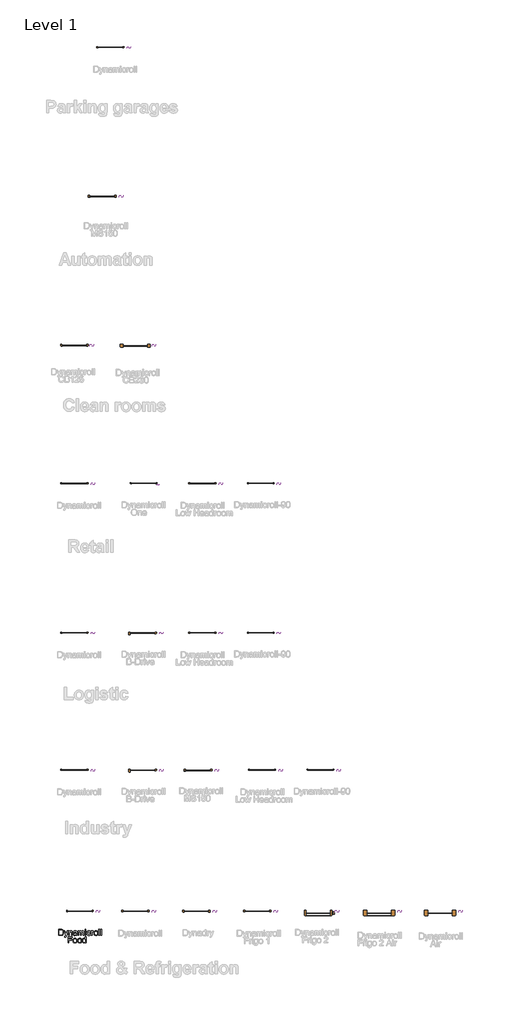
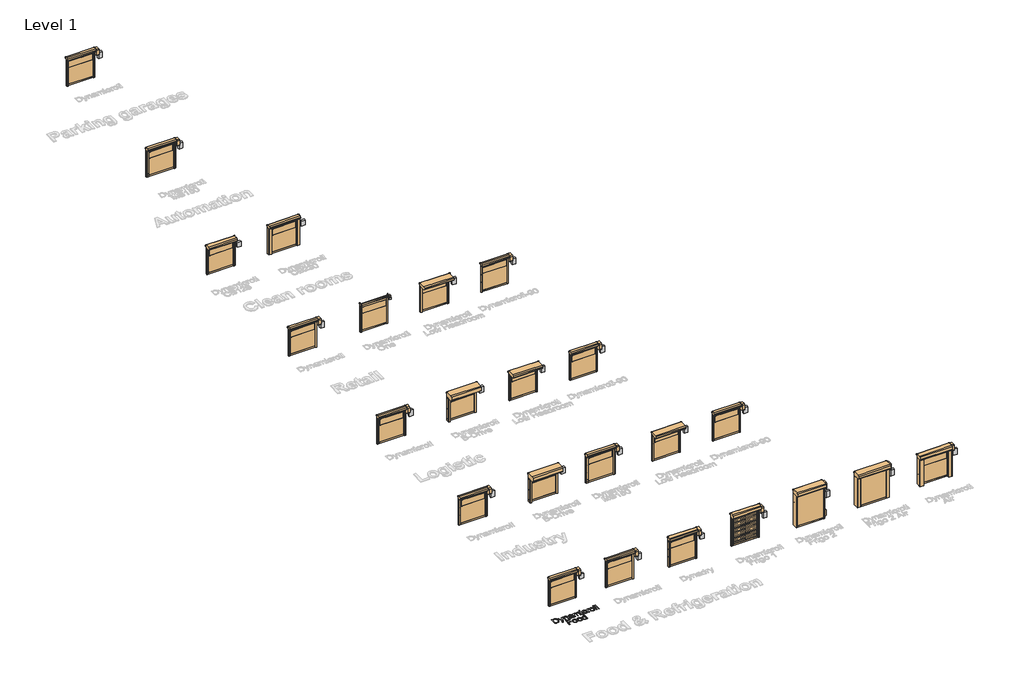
# One storey, part 1 of 17: 24 doors, 24 electric distribution boards, 1 proxy.
"""IFC4 building model written with IfcOpenShell, lengths in millimetres."""

from ifc_helpers import new_model, si_unit, origin, origin_with_axes, place, context, project, spatial, polyline, outline, extrude, transform, mapped, element, save
from components import door_73d46575, door_7dfef6e7, door_fc38a23d, door_0f29b29e, door_dcf74658, door_a66aba2e, door_ffd00a84, door_aceed0af, door_23fff084, door_8d8b76a4, door_111b3a7b, door_f3b390bc, cb125_eadb58d3, cb230_7affb9d1, ee_wpb_control_panel_bmp_sh_control_panel_one_fab0d9c8, ee_wpb_control_panel_bmp_sh_control_panel_pvc_26d0edfe, ee_wpb_control_panel_bmp_sh_control_panel_powder_coated_2337cf2d

model = new_model("IFC4")

# Units and contexts
model_context = context("Model", 3, world=origin())
ifc_project = project(units=[si_unit("LENGTHUNIT", "METRE", prefix="MILLI")], contexts=[model_context])

# Site, building, storey
site = spatial("IfcSite", under=ifc_project)
building = spatial("IfcBuilding", under=site)
storey = spatial("IfcBuildingStorey", under=building, Name="Level 1", Elevation=0.0)

# Proxy
placement = place(None, origin())
element("IfcBuildingElementProxy", 1, Name="500mm", ObjectType="500mm", at=placement, inside=storey, context=model_context, shape_type="SweptSolid", body=[
    extrude(outline(polyline([(202.3822984, 7606.4708973), (202.3822984, 8108.7524481), (375.6547181, 8108.7524481), (427.4341089, 8106.9436949), (465.2952976, 8101.5174355), (505.3331214, 8087.5685765), (539.1169513, 8065.5876273), (557.7333131, 8047.6227232), (573.851143, 8027.3278998), (587.470441, 8004.7031571), (598.5912072, 7979.7484951), (613.3984575, 7923.7691182), (618.3342076, 7860.309474), (614.9926128, 7806.3994333), (604.9678284, 7758.9579843), (589.7007256, 7718.567607), (570.6321755, 7685.810781), (548.6818831, 7659.9517424), (524.7695535, 7640.2547272), (497.3163596, 7625.6467463), (464.7434746, 7615.0548106), (426.9895848, 7608.6168756), (383.9933766, 7606.4708973), (202.3822984, 7606.4708973)]), holes=[polyline([(265.1674922, 7669.2560912), (376.2678547, 7669.2560912), (422.2224473, 7671.5246968), (457.0792663, 7678.3305137), (483.382829, 7689.2750031), (503.6776524, 7703.9596261), (525.489989, 7731.1369085), (541.8760662, 7766.3156242), (552.1307769, 7809.6490576), (555.5490137, 7861.2904927), (553.8743842, 7897.741467), (548.8504957, 7929.7165438), (540.4773482, 7957.2157229), (528.7549417, 7980.2390044), (514.6336381, 7999.3075545), (499.063799, 8014.9425393), (482.0454247, 8027.1439588), (463.5785149, 8035.911813), (427.4647657, 8043.4533939), (374.5510721, 8045.9672542), (265.1674922, 8045.9672542), (265.1674922, 7669.2560912)])]), origin_with_axes(), (0.0, 0.0, 1.0), 5.0),
    extrude(outline(polyline([(696.8156999, 7465.2042112), (688.9675506, 7525.6594857), (720.8506569, 7520.1412558), (737.6199445, 7521.8733669), (750.6490985, 7527.0697), (760.7965102, 7535.3623734), (768.9205709, 7546.3835048), (786.0883974, 7592.6140089), (790.9934906, 7607.819798), (657.5749537, 7975.3339112), (723.7937129, 7975.3339112), (794.5496833, 7770.5462672), (819.1977769, 7688.6312096), (843.8458706, 7760.9813353), (916.5638783, 7975.3339112), (982.2921281, 7975.3339112), (853.9013118, 7597.6417295), (820.5466776, 7515.7266719), (803.4708216, 7489.5763934), (784.1263601, 7471.4582051), (761.6549015, 7460.8815978), (735.1980547, 7457.356062), (717.0185528, 7459.3180993), (696.8156999, 7465.2042112)])), origin_with_axes(), (0.0, 0.0, 1.0), 5.0),
    extrude(outline(polyline([(1034.2861168, 7606.4708973), (1034.2861168, 7975.3339112), (1097.0713106, 7975.3339112), (1097.0713106, 7923.8304318), (1118.8836473, 7949.7967693), (1145.079911, 7968.3441533), (1175.6601018, 7979.4725836), (1210.6242198, 7983.1820604), (1241.5722926, 7980.1930192), (1269.9145347, 7971.2258956), (1293.5509529, 7957.3996639), (1310.3815542, 7939.8332986), (1321.8012244, 7918.572785), (1329.2048496, 7893.6641082), (1332.5157875, 7832.963579), (1332.5157875, 7606.4708973), (1269.7305937, 7606.4708973), (1269.7305937, 7824.5022932), (1267.9218406, 7856.9678792), (1262.4955811, 7880.0524744), (1252.4861252, 7896.5918358), (1236.9277825, 7909.4217204), (1216.9855126, 7917.65308), (1193.8242754, 7920.3968666), (1174.7595574, 7918.8563607), (1157.0514043, 7914.2348431), (1140.699816, 7906.5323139), (1125.7047926, 7895.7487729), (1113.1776442, 7880.6579469), (1104.2296811, 7860.0335625), (1098.8609032, 7833.8756198), (1097.0713106, 7802.1841188), (1097.0713106, 7606.4708973), (1034.2861168, 7606.4708973)])), origin_with_axes(), (0.0, 0.0, 1.0), 5.0),
    extrude(outline(polyline([(1654.289906, 7653.5597927), (1624.292195, 7627.8387099), (1593.4054358, 7611.0081086), (1560.9245213, 7601.7190882), (1526.1443443, 7598.6227481), (1498.1891448, 7600.4851507), (1473.6751748, 7606.0723585), (1452.6024342, 7615.3843715), (1434.9709232, 7628.4211897), (1421.0488889, 7644.3550786), (1411.1045788, 7662.3583038), (1405.1379926, 7682.4308651), (1403.1491306, 7704.5727627), (1406.1535002, 7730.6004139), (1415.1666091, 7754.2368321), (1429.0694829, 7774.4703418), (1446.743147, 7790.2892676), (1467.5131514, 7802.2454324), (1490.7050455, 7810.8906593), (1545.0289534, 7820.3329639), (1609.2243616, 7830.2657777), (1653.922024, 7841.9153743), (1654.289906, 7855.8948901), (1649.9672925, 7883.9152354), (1636.9994522, 7902.2480215), (1623.924313, 7910.1881412), (1607.9980883, 7915.8596553), (1567.5923825, 7920.3968666), (1530.1910463, 7917.3771685), (1504.0714246, 7908.3180744), (1486.2598047, 7891.5641152), (1473.7824737, 7865.4598219), (1410.9972798, 7873.3079712), (1421.8957839, 7907.6436241), (1438.1592338, 7934.621637), (1461.3051427, 7955.2536856), (1492.8510238, 7970.5514452), (1531.432648, 7980.0244066), (1575.6857863, 7983.1820604), (1618.1301715, 7980.3922886), (1651.7760457, 7972.0229732), (1677.1445749, 7959.4383433), (1694.7569255, 7944.0026279), (1706.4371788, 7924.9187494), (1714.0094165, 7901.3896301), (1717.0750998, 7846.4525855), (1717.0750998, 7768.3389752), (1720.2634105, 7659.2619636), (1724.9845627, 7632.2992791), (1732.7713983, 7606.4708973), (1669.9862044, 7606.4708973), (1659.9307632, 7628.2985624), (1654.289906, 7653.5597927)]), holes=[polyline([(1654.289906, 7779.1301804), (1612.1061039, 7768.6762004), (1552.99973, 7759.8776893), (1498.9823904, 7749.6996208), (1484.9262325, 7742.7405197), (1474.5182377, 7733.144931), (1468.0803028, 7721.6486187), (1465.9343245, 7708.9873467), (1470.6094915, 7690.3173354), (1484.6349925, 7675.0195758), (1507.7042593, 7664.8108504), (1539.5107235, 7661.407942), (1573.2332397, 7665.163404), (1603.0316813, 7676.4297901), (1627.1892657, 7693.0304651), (1643.9892101, 7712.7887939), (1651.4388205, 7733.144931), (1653.922024, 7761.3492173), (1654.289906, 7779.1301804)])]), origin_with_axes(), (0.0, 0.0, 1.0), 5.0),
    extrude(outline(polyline([(1803.4047414, 7606.4708973), (1803.4047414, 7975.3339112), (1866.1899352, 7975.3339112), (1866.1899352, 7914.633382), (1885.0745443, 7942.5157715), (1909.354756, 7964.358765), (1938.2028358, 7978.4762365), (1970.7910492, 7983.1820604), (2005.7091819, 7978.384266), (2033.6988703, 7963.990883), (2054.6068304, 7940.952273), (2068.2797779, 7910.218798), (2091.1651037, 7942.1402253), (2117.2693969, 7964.9412448), (2146.5926576, 7978.6218565), (2179.1348858, 7983.1820604), (2204.2696567, 7981.2851689), (2226.3310801, 7975.5944943), (2245.319156, 7966.1100366), (2261.2338844, 7952.8317958), (2273.8146822, 7935.6064878), (2282.8009663, 7914.2808284), (2288.1927368, 7888.8548176), (2289.9899937, 7859.3284554), (2289.9899937, 7606.4708973), (2227.2047998, 7606.4708973), (2227.2047998, 7832.3504424), (2225.7486002, 7863.6663972), (2221.3800016, 7884.7736267), (2213.1946272, 7899.2283234), (2200.2881005, 7910.58668), (2183.6874255, 7917.9443199), (2164.419606, 7920.3968666), (2146.6271466, 7918.8257039), (2130.4058498, 7914.1122158), (2115.7557158, 7906.2564024), (2102.6767444, 7895.2582636), (2091.9200282, 7880.7959026), (2084.2366594, 7862.5474228), (2079.6266382, 7840.5128241), (2078.0899644, 7814.6921066), (2078.0899644, 7606.4708973), (2015.3047706, 7606.4708973), (2015.3047706, 7839.3402003), (2011.6719359, 7874.8408128), (2000.7734318, 7900.1633568), (1992.3466348, 7909.0155173), (1981.5975828, 7915.3384891), (1953.1327134, 7920.3968666), (1928.9444722, 7917.0246149), (1906.6569547, 7906.9078601), (1888.2628549, 7890.2918566), (1875.7548671, 7867.4218593), (1868.5811682, 7835.6920372), (1866.1899352, 7792.4965596), (1866.1899352, 7606.4708973), (1803.4047414, 7606.4708973)])), origin_with_axes(), (0.0, 0.0, 1.0), 5.0),
    extrude(outline(polyline([(2384.1677844, 8045.9672542), (2384.1677844, 8108.7524481), (2446.9529783, 8108.7524481), (2446.9529783, 8045.9672542), (2384.1677844, 8045.9672542)])), origin_with_axes(), (0.0, 0.0, 1.0), 5.0),
    extrude(outline(polyline([(2384.1677844, 7606.4708973), (2384.1677844, 7975.3339112), (2446.9529783, 7975.3339112), (2446.9529783, 7606.4708973), (2384.1677844, 7606.4708973)])), origin_with_axes(), (0.0, 0.0, 1.0), 5.0),
    extrude(outline(polyline([(2776.5752459, 7739.8894343), (2839.3604398, 7732.041285), (2832.5316302, 7702.4152881), (2821.8553882, 7676.1998638), (2807.3317136, 7653.3950122), (2788.9606064, 7634.0007333), (2767.5161518, 7618.5228648), (2743.7724347, 7607.4672444), (2717.7294551, 7600.8338722), (2689.3872131, 7598.6227481), (2654.1740084, 7601.7075919), (2622.6013025, 7610.9621234), (2594.6690956, 7626.3863424), (2570.3773876, 7647.9802491), (2550.7148614, 7675.3376404), (2536.6701998, 7708.0523133), (2528.2434029, 7746.1242677), (2525.4344706, 7789.5535036), (2530.2322649, 7845.4255816), (2544.625648, 7893.8480492), (2555.4781668, 7914.7981624), (2568.844546, 7932.9508396), (2584.7247855, 7948.3060808), (2603.1188852, 7960.863886), (2644.1223993, 7977.6025168), (2688.5288218, 7983.1820604), (2716.3843866, 7981.2660083), (2741.5804711, 7975.5178522), (2764.1170755, 7965.9375919), (2783.9941995, 7952.5252275), (2800.8746181, 7935.5873273), (2814.4211062, 7915.4304596), (2824.6336637, 7892.0546245), (2831.5122906, 7865.4598219), (2768.7270967, 7857.6116727), (2757.3380833, 7885.0035529), (2739.6031054, 7904.6392544), (2716.5031818, 7916.4574635), (2689.0193311, 7920.3968666), (2667.6860075, 7918.4578219), (2648.4450127, 7912.6406878), (2631.2963468, 7902.9454644), (2616.2400097, 7889.3721516), (2603.9811086, 7871.6065169), (2595.2247507, 7849.3343278), (2589.970936, 7822.5555843), (2588.2196644, 7791.2702863), (2589.9326149, 7759.5136394), (2595.0714666, 7732.4244954), (2603.6362193, 7710.0028543), (2615.626873, 7692.2487159), (2630.384306, 7678.7558773), (2647.2493962, 7669.1181354), (2666.2221437, 7663.3354903), (2687.3025484, 7661.407942), (2719.8141198, 7666.2210647), (2746.470236, 7680.660433), (2757.2499449, 7691.5819298), (2765.8606828, 7705.0939289), (2776.5752459, 7739.8894343)])), origin_with_axes(), (0.0, 0.0, 1.0), 5.0),
    extrude(outline(polyline([(2894.2974844, 7606.4708973), (2894.2974844, 7975.3339112), (2949.234529, 7975.3339112), (2949.234529, 7920.7647486), (2969.5293524, 7952.4026001), (2988.2300205, 7971.0419546), (3006.9920023, 7980.1470339), (3027.4707666, 7983.1820604), (3058.7407362, 7978.3382808), (3090.5012152, 7963.806942), (3069.5319414, 7907.5209967), (3047.4590217, 7917.1778991), (3025.386102, 7920.3968666), (3006.6394487, 7917.3005264), (2989.8854895, 7908.0115061), (2976.3504977, 7893.2349126), (2967.2607468, 7873.6758532), (2959.6271954, 7838.6044363), (2957.0826782, 7800.3447088), (2957.0826782, 7606.4708973), (2894.2974844, 7606.4708973)])), origin_with_axes(), (0.0, 0.0, 1.0), 5.0),
    extrude(outline(polyline([(3114.0456628, 7790.9024043), (3117.4409071, 7838.6734142), (3127.6266398, 7879.8378766), (3144.6028611, 7914.3957915), (3168.3695708, 7942.3471589), (3192.2972289, 7960.2124283), (3218.7080905, 7972.973335), (3247.6021555, 7980.6298791), (3278.979424, 7983.1820604), (3313.6178131, 7980.074224), (3344.9376001, 7970.7507146), (3372.9387848, 7955.2115325), (3397.6213675, 7933.4566774), (3417.7667388, 7906.2219134), (3432.1562898, 7874.2430046), (3440.7900203, 7837.5199508), (3443.6679305, 7796.0527522), (3438.5788963, 7732.6237649), (3432.2176034, 7706.5884495), (3423.3117935, 7684.339253), (3411.9725974, 7665.1212508), (3398.3111462, 7648.1795185), (3382.3274399, 7633.5140561), (3364.0214786, 7621.1248635), (3323.293876, 7604.248277), (3278.979424, 7598.6227481), (3243.8351972, 7601.7190882), (3212.2241703, 7611.0081086), (3184.1463434, 7626.4898092), (3159.6017166, 7648.1641901), (3139.6709431, 7675.6633693), (3125.4346763, 7708.6194647), (3116.8929162, 7747.0324763), (3114.0456628, 7790.9024043)]), holes=[polyline([(3176.8308567, 7791.0250316), (3178.647274, 7760.5713002), (3184.0965261, 7734.2025918), (3193.1786129, 7711.9189063), (3205.8935343, 7693.7202439), (3221.3599065, 7679.5836118), (3238.6963455, 7669.4860174), (3257.9028514, 7663.4274608), (3278.979424, 7661.407942), (3299.9486977, 7663.4389571), (3319.0785615, 7669.5320027), (3336.3690153, 7679.6870786), (3351.8200591, 7693.9041849), (3364.5349805, 7712.2829562), (3373.6170673, 7734.9230273), (3379.0663193, 7761.8243982), (3380.8827367, 7792.9870689), (3379.054823, 7822.4751101), (3373.571082, 7848.1540398), (3364.4315137, 7870.0238579), (3351.6361181, 7888.0845646), (3336.1275927, 7902.2211967), (3318.8486352, 7912.3187911), (3299.7992457, 7918.3773477), (3278.979424, 7920.3968666), (3257.9028514, 7918.3850119), (3238.6963455, 7912.3494479), (3221.3599065, 7902.2901746), (3205.8935343, 7888.207192), (3193.1786129, 7870.062179), (3184.0965261, 7847.8168146), (3178.647274, 7821.4710988), (3176.8308567, 7791.0250316)])]), origin_with_axes(), (0.0, 0.0, 1.0), 5.0),
    extrude(outline(polyline([(3514.3012736, 7606.4708973), (3514.3012736, 8108.7524481), (3577.0864674, 8108.7524481), (3577.0864674, 7606.4708973), (3514.3012736, 7606.4708973)])), origin_with_axes(), (0.0, 0.0, 1.0), 5.0),
    extrude(outline(polyline([(3671.2642582, 7606.4708973), (3671.2642582, 8108.7524481), (3734.0494521, 8108.7524481), (3734.0494521, 7606.4708973), (3671.2642582, 7606.4708973)])), origin_with_axes(), (0.0, 0.0, 1.0), 5.0),
    extrude(outline(polyline([(987.1972214, 6996.5968081), (987.1972214, 7498.8783589), (1324.6676383, 7498.8783589), (1324.6676383, 7436.093165), (1049.9824152, 7436.093165), (1049.9824152, 7286.9783296), (1285.4268922, 7286.9783296), (1285.4268922, 7224.1931358), (1049.9824152, 7224.1931358), (1049.9824152, 6996.5968081), (987.1972214, 6996.5968081)])), origin_with_axes(), (0.0, 0.0, 1.0), 5.0),
    extrude(outline(polyline([(1387.4528322, 7181.028315), (1390.8480764, 7228.7993249), (1401.0338091, 7269.9637874), (1418.0100304, 7304.5217023), (1441.7767401, 7332.4730697), (1465.7043982, 7350.3383391), (1492.1152598, 7363.0992458), (1521.0093248, 7370.7557898), (1552.3865933, 7373.3079712), (1587.0249824, 7370.2001347), (1618.3447694, 7360.8766254), (1646.3459542, 7345.3374432), (1671.0285368, 7323.5825882), (1691.1739081, 7296.3478242), (1705.5634591, 7264.3689154), (1714.1971896, 7227.6458616), (1717.0750998, 7186.178663), (1711.9860656, 7122.7496756), (1705.6247727, 7096.7143603), (1696.7189628, 7074.4651638), (1685.3797667, 7055.2471616), (1671.7183155, 7038.3054293), (1655.7346092, 7023.6399669), (1637.4286479, 7011.2507743), (1596.7010453, 6994.3741877), (1552.3865933, 6988.7486589), (1517.2423665, 6991.844999), (1485.6313396, 7001.1340194), (1457.5535128, 7016.61572), (1433.0088859, 7038.2901009), (1413.0781124, 7065.78928), (1398.8418456, 7098.7453754), (1390.3000855, 7137.1583871), (1387.4528322, 7181.028315)]), holes=[polyline([(1450.238026, 7181.1509424), (1452.0544433, 7150.6972109), (1457.5036954, 7124.3285025), (1466.5857822, 7102.0448171), (1479.3007036, 7083.8461546), (1494.7670758, 7069.7095226), (1512.1035148, 7059.6119282), (1531.3100207, 7053.5533716), (1552.3865933, 7051.5338527), (1573.355867, 7053.5648679), (1592.4857308, 7059.6579135), (1609.7761846, 7069.8129894), (1625.2272284, 7084.0300956), (1637.9421498, 7102.408867), (1647.0242366, 7125.0489381), (1652.4734886, 7151.950309), (1654.289906, 7183.1129797), (1652.4619923, 7212.6010208), (1646.9782513, 7238.2799505), (1637.838683, 7260.1497687), (1625.0432874, 7278.2104754), (1609.534762, 7292.3471075), (1592.2558045, 7302.4447019), (1573.206415, 7308.5032585), (1552.3865933, 7310.5227773), (1531.3100207, 7308.5109227), (1512.1035148, 7302.4753587), (1494.7670758, 7292.4160854), (1479.3007036, 7278.3331028), (1466.5857822, 7260.1880898), (1457.5036954, 7237.9427254), (1452.0544433, 7211.5970096), (1450.238026, 7181.1509424)])]), origin_with_axes(), (0.0, 0.0, 1.0), 5.0),
    extrude(outline(polyline([(1772.0121444, 7181.028315), (1775.4073887, 7228.7993249), (1785.5931214, 7269.9637874), (1802.5693427, 7304.5217023), (1826.3360524, 7332.4730697), (1850.2637105, 7350.3383391), (1876.6745721, 7363.0992458), (1905.5686371, 7370.7557898), (1936.9459056, 7373.3079712), (1971.5842947, 7370.2001347), (2002.9040817, 7360.8766254), (2030.9052664, 7345.3374432), (2055.5878491, 7323.5825882), (2075.7332204, 7296.3478242), (2090.1227714, 7264.3689154), (2098.7565019, 7227.6458616), (2101.6344121, 7186.178663), (2096.5453779, 7122.7496756), (2090.184085, 7096.7143603), (2081.2782751, 7074.4651638), (2069.939079, 7055.2471616), (2056.2776278, 7038.3054293), (2040.2939215, 7023.6399669), (2021.9879602, 7011.2507743), (1981.2603576, 6994.3741877), (1936.9459056, 6988.7486589), (1901.8016788, 6991.844999), (1870.1906519, 7001.1340194), (1842.112825, 7016.61572), (1817.5681982, 7038.2901009), (1797.6374247, 7065.78928), (1783.4011579, 7098.7453754), (1774.8593978, 7137.1583871), (1772.0121444, 7181.028315)]), holes=[polyline([(1834.7973383, 7181.1509424), (1836.6137556, 7150.6972109), (1842.0630077, 7124.3285025), (1851.1450944, 7102.0448171), (1863.8600159, 7083.8461546), (1879.3263881, 7069.7095226), (1896.6628271, 7059.6119282), (1915.869333, 7053.5533716), (1936.9459056, 7051.5338527), (1957.9151793, 7053.5648679), (1977.0450431, 7059.6579135), (1994.3354969, 7069.8129894), (2009.7865407, 7084.0300956), (2022.5014621, 7102.408867), (2031.5835489, 7125.0489381), (2037.0328009, 7151.950309), (2038.8492183, 7183.1129797), (2037.0213046, 7212.6010208), (2031.5375636, 7238.2799505), (2022.3979953, 7260.1497687), (2009.6025997, 7278.2104754), (1994.0940743, 7292.3471075), (1976.8151168, 7302.4447019), (1957.7657273, 7308.5032585), (1936.9459056, 7310.5227773), (1915.869333, 7308.5109227), (1896.6628271, 7302.4753587), (1879.3263881, 7292.4160854), (1863.8600159, 7278.3331028), (1851.1450944, 7260.1880898), (1842.0630077, 7237.9427254), (1836.6137556, 7211.5970096), (1834.7973383, 7181.1509424)])]), origin_with_axes(), (0.0, 0.0, 1.0), 5.0),
    extrude(outline(polyline([(2399.8640829, 6996.5968081), (2399.8640829, 7055.8258093), (2381.0791085, 7026.479556), (2358.3240743, 7005.5179465), (2331.5989801, 6992.9409808), (2300.9038262, 6988.7486589), (2260.3141794, 6994.8187118), (2223.1580979, 7013.0288706), (2191.7041873, 7042.1068766), (2168.2210532, 7080.7804713), (2153.5977439, 7127.4861563), (2148.7233075, 7180.660433), (2153.2145335, 7233.1755878), (2166.6882116, 7280.6017084), (2176.7896381, 7301.7319305), (2189.1290133, 7320.2409934), (2203.7063374, 7336.128897), (2220.5216102, 7349.3956415), (2258.4900978, 7367.3298888), (2300.6585715, 7373.3079712), (2331.3767181, 7369.031343), (2358.5386721, 7356.2014584), (2381.5619536, 7336.5351001), (2399.8640829, 7311.7490507), (2399.8640829, 7498.8783589), (2462.6492767, 7498.8783589), (2462.6492767, 6996.5968081), (2399.8640829, 6996.5968081)]), holes=[polyline([(2211.5085013, 7180.9056877), (2213.2789334, 7150.4596205), (2218.5902298, 7124.1139047), (2227.4423903, 7101.8685403), (2239.835415, 7083.7235273), (2254.6350011, 7069.6405447), (2270.7068457, 7059.5812714), (2288.050949, 7053.5457074), (2306.6673108, 7051.5338527), (2325.371811, 7053.4537369), (2342.6124474, 7059.2133894), (2358.38922, 7068.8128102), (2372.7021289, 7082.2519993), (2384.5854838, 7099.6382557), (2393.0735944, 7121.0788782), (2398.1664608, 7146.5738669), (2399.8640829, 7176.1232218), (2398.1358039, 7208.51983), (2392.9509671, 7236.3025848), (2384.3095723, 7259.4714863), (2372.2116196, 7278.0265344), (2357.5844782, 7292.2436407), (2341.3555172, 7302.3987166), (2323.5247368, 7308.4917622), (2304.0921368, 7310.5227773), (2285.107893, 7308.5722363), (2267.7637898, 7302.7206134), (2252.0598271, 7292.9679084), (2237.996005, 7279.3141214), (2226.4077222, 7261.4603483), (2218.1303773, 7239.107685), (2213.1639703, 7212.2561315), (2211.5085013, 7180.9056877)])]), origin_with_axes(), (0.0, 0.0, 1.0), 5.0),
])

# Doors
door_shape = door_73d46575(model_context)
element("IfcDoor", 2, ObjectType="DO_WPB_Dynamicroll_BMP : Dynamicroll", at=placement, inside=storey, context=model_context, shape_type="MappedRepresentation", body=[
    mapped(door_shape, transform((6497.2684086, 9654.9840976, 0.0), x_axis=(1.0, 0.0, 0.0), y_axis=(0.0, 1.0, 0.0), z_axis=(0.0, 0.0, 1.0))),
])
element("IfcDoor", 3, ObjectType="DO_WPB_Dynamicroll_BMP : Dynamicroll", at=placement, inside=storey, context=model_context, shape_type="MappedRepresentation", body=[
    mapped(door_shape, transform((1488.8652486, 32462.1380074, 0.0), x_axis=(1.0, 0.0, 0.0), y_axis=(0.0, 1.0, 0.0), z_axis=(0.0, 0.0, 1.0))),
])
element("IfcDoor", 4, ObjectType="DO_WPB_Dynamicroll_BMP : Dynamicroll", at=placement, inside=storey, context=model_context, shape_type="MappedRepresentation", body=[
    mapped(door_shape, transform((1488.8652486, 21224.4832479, 0.0), x_axis=(1.0, 0.0, 0.0), y_axis=(0.0, 1.0, 0.0), z_axis=(0.0, 0.0, 1.0))),
])
element("IfcDoor", 5, ObjectType="DO_WPB_Dynamicroll_BMP : Dynamicroll", at=placement, inside=storey, context=model_context, shape_type="MappedRepresentation", body=[
    mapped(door_shape, transform((1488.8652486, 44698.8509751, 0.0), x_axis=(1.0, 0.0, 0.0), y_axis=(0.0, 1.0, 0.0), z_axis=(0.0, 0.0, 1.0))),
])
element("IfcDoor", 6, ObjectType="DO_WPB_Dynamicroll_BMP : Dynamicroll", at=placement, inside=storey, context=model_context, shape_type="MappedRepresentation", body=[
    mapped(door_shape, transform((4445.6536388, 80429.8524972, 0.0), x_axis=(1.0, 0.0, 0.0), y_axis=(0.0, 1.0, 0.0), z_axis=(0.0, 0.0, 1.0))),
])
door_2_shape = door_7dfef6e7(model_context)
element("IfcDoor", 7, ObjectType="DO_WPB_Dynamicroll_BMP : Dynamicroll-90", at=placement, inside=storey, context=model_context, shape_type="MappedRepresentation", body=[
    mapped(door_2_shape, transform((16781.7584674, 32462.1380074, 0.0), x_axis=(1.0, 0.0, 0.0), y_axis=(0.0, 1.0, 0.0), z_axis=(0.0, 0.0, 1.0))),
])
element("IfcDoor", 8, ObjectType="DO_WPB_Dynamicroll_BMP : Dynamicroll-90", at=placement, inside=storey, context=model_context, shape_type="MappedRepresentation", body=[
    mapped(door_2_shape, transform((21681.7584674, 21224.4832479, 0.0), x_axis=(1.0, 0.0, 0.0), y_axis=(0.0, 1.0, 0.0), z_axis=(0.0, 0.0, 1.0))),
])
element("IfcDoor", 9, ObjectType="DO_WPB_Dynamicroll_BMP : Dynamicroll-90", at=placement, inside=storey, context=model_context, shape_type="MappedRepresentation", body=[
    mapped(door_2_shape, transform((16781.7584674, 44698.8509751, 0.0), x_axis=(1.0, 0.0, 0.0), y_axis=(0.0, 1.0, 0.0), z_axis=(0.0, 0.0, 1.0))),
])
door_3_shape = door_fc38a23d(model_context)
element("IfcDoor", 10, ObjectType="DO_WPB_Dynamicroll_BMP : Dynamicroll MS150", at=placement, inside=storey, context=model_context, shape_type="MappedRepresentation", body=[
    mapped(door_3_shape, transform((11635.9345844, 21224.4832479, 0.0), x_axis=(1.0, 0.0, 0.0), y_axis=(0.0, 1.0, 0.0), z_axis=(0.0, 0.0, 1.0))),
])
element("IfcDoor", 11, ObjectType="DO_WPB_Dynamicroll_BMP : Dynamicroll MS150", at=placement, inside=storey, context=model_context, shape_type="MappedRepresentation", body=[
    mapped(door_3_shape, transform((3788.8652486, 68233.2125546, 0.0), x_axis=(1.0, 0.0, 0.0), y_axis=(0.0, 1.0, 0.0), z_axis=(0.0, 0.0, 1.0))),
])
door_4_shape = door_0f29b29e(model_context)
element("IfcDoor", 12, ObjectType="DO_WPB_Dynamicroll_BMP : Dynamicroll Food Inox", at=placement, inside=storey, context=model_context, shape_type="MappedRepresentation", body=[
    mapped(door_4_shape, transform((1948.7786866, 9654.9840976, 0.0), x_axis=(1.0, 0.0, 0.0), y_axis=(0.0, 1.0, 0.0), z_axis=(0.0, 0.0, 1.0))),
])
door_5_shape = door_dcf74658(model_context)
element("IfcDoor", 13, ObjectType="DO_WPB_Dynadry_BMP : Dynadry", at=placement, inside=storey, context=model_context, shape_type="MappedRepresentation", body=[
    mapped(door_5_shape, transform((11497.2684086, 9654.9840976, 0.0), x_axis=(1.0, 0.0, 0.0), y_axis=(0.0, 1.0, 0.0), z_axis=(0.0, 0.0, 1.0))),
])
door_6_shape = door_a66aba2e(model_context)
element("IfcDoor", 14, ObjectType="DO_WPB_Dynamicroll Frigo_Air_BMP : Dynamicroll Frigo1", at=placement, inside=storey, context=model_context, shape_type="MappedRepresentation", body=[
    mapped(door_6_shape, transform((16497.2684086, 9654.9840976, 0.0), x_axis=(1.0, 0.0, 0.0), y_axis=(0.0, 1.0, 0.0), z_axis=(0.0, 0.0, 1.0))),
])
door_7_shape = door_ffd00a84(model_context)
element("IfcDoor", 15, ObjectType="DO_WPB_Dynamicroll Frigo_Air_BMP : Dynamicroll Frigo2", at=placement, inside=storey, context=model_context, shape_type="MappedRepresentation", body=[
    mapped(door_7_shape, transform((21497.2684086, 9654.9840976, 0.0), x_axis=(1.0, 0.0, 0.0), y_axis=(0.0, 1.0, 0.0), z_axis=(0.0, 0.0, 1.0))),
])
door_8_shape = door_aceed0af(model_context)
element("IfcDoor", 16, ObjectType="DO_WPB_Dynamicroll Frigo_Air_BMP : Dynamicroll Frigo2 Air", at=placement, inside=storey, context=model_context, shape_type="MappedRepresentation", body=[
    mapped(door_8_shape, transform((26497.2684086, 9654.9840976, 0.0), x_axis=(1.0, 0.0, 0.0), y_axis=(0.0, 1.0, 0.0), z_axis=(0.0, 0.0, 1.0))),
])
door_9_shape = door_23fff084(model_context)
element("IfcDoor", 17, ObjectType="DO_WPB_Dynamicroll Frigo_Air_BMP : Dynamicroll Air", at=placement, inside=storey, context=model_context, shape_type="MappedRepresentation", body=[
    mapped(door_9_shape, transform((31497.2684086, 9654.9840976, 0.0), x_axis=(1.0, 0.0, 0.0), y_axis=(0.0, 1.0, 0.0), z_axis=(0.0, 0.0, 1.0))),
])
door_10_shape = door_8d8b76a4(model_context)
element("IfcDoor", 18, ObjectType="DO_WPB_Dynamicroll_BMP : Dynamicroll B-Drive", at=placement, inside=storey, context=model_context, shape_type="MappedRepresentation", body=[
    mapped(door_10_shape, transform((7088.8652486, 32462.1380074, 0.0), x_axis=(1.0, 0.0, 0.0), y_axis=(0.0, 1.0, 0.0), z_axis=(0.0, 0.0, 1.0))),
])
element("IfcDoor", 19, ObjectType="DO_WPB_Dynamicroll_BMP : Dynamicroll B-Drive", at=placement, inside=storey, context=model_context, shape_type="MappedRepresentation", body=[
    mapped(door_10_shape, transform((7088.8652486, 21224.4832479, 0.0), x_axis=(1.0, 0.0, 0.0), y_axis=(0.0, 1.0, 0.0), z_axis=(0.0, 0.0, 1.0))),
])
door_11_shape = door_111b3a7b(model_context)
element("IfcDoor", 20, ObjectType="DO_WPB_Dynamicroll_BMP : Dynamicroll Low Headroom", at=placement, inside=storey, context=model_context, shape_type="MappedRepresentation", body=[
    mapped(door_11_shape, transform((11988.8652486, 32462.1380074, 0.0), x_axis=(1.0, 0.0, 0.0), y_axis=(0.0, 1.0, 0.0), z_axis=(0.0, 0.0, 1.0))),
])
element("IfcDoor", 21, ObjectType="DO_WPB_Dynamicroll_BMP : Dynamicroll Low Headroom", at=placement, inside=storey, context=model_context, shape_type="MappedRepresentation", body=[
    mapped(door_11_shape, transform((16888.8652486, 21224.4832479, 0.0), x_axis=(1.0, 0.0, 0.0), y_axis=(0.0, 1.0, 0.0), z_axis=(0.0, 0.0, 1.0))),
])
element("IfcDoor", 22, ObjectType="DO_WPB_Dynamicroll_BMP : Dynamicroll Low Headroom", at=placement, inside=storey, context=model_context, shape_type="MappedRepresentation", body=[
    mapped(door_11_shape, transform((11988.8652486, 44698.8509751, 0.0), x_axis=(1.0, 0.0, 0.0), y_axis=(0.0, 1.0, 0.0), z_axis=(0.0, 0.0, 1.0))),
])
door_12_shape = door_f3b390bc(model_context)
element("IfcDoor", 23, ObjectType="DO_WPB_Dynamicroll_BMP : Dynamicroll One", at=placement, inside=storey, context=model_context, shape_type="MappedRepresentation", body=[
    mapped(door_12_shape, transform((7181.7584674, 44698.8509751, 0.0), x_axis=(1.0, 0.0, 0.0), y_axis=(0.0, 1.0, 0.0), z_axis=(0.0, 0.0, 1.0))),
])
cb125_shape = cb125_eadb58d3(model_context)
element("IfcDoor", 24, ObjectType="DO_WPB_Dynamicroll Cleanroom_BMP : CB125", at=placement, inside=storey, context=model_context, shape_type="MappedRepresentation", body=[
    mapped(cb125_shape, transform((1497.2684086, 56020.8553836, 0.0), x_axis=(1.0, 0.0, 0.0), y_axis=(0.0, 1.0, 0.0), z_axis=(0.0, 0.0, 1.0))),
])
cb230_shape = cb230_7affb9d1(model_context)
element("IfcDoor", 25, ObjectType="DO_WPB_Dynamicroll Cleanroom_BMP : CB230", at=placement, inside=storey, context=model_context, shape_type="MappedRepresentation", body=[
    mapped(cb230_shape, transform((6497.2684086, 56020.8553836, 0.0), x_axis=(1.0, 0.0, 0.0), y_axis=(0.0, 1.0, 0.0), z_axis=(0.0, 0.0, 1.0))),
])

# Electric distribution boards
ee_wpb_control_panel_bmp_sh_control_panel_one_shape = ee_wpb_control_panel_bmp_sh_control_panel_one_fab0d9c8(model_context)
element("IfcElectricDistributionBoard", 26, ObjectType="EE_WPB_control panel_BMP_SH : Control panel One", at=placement, inside=storey, context=model_context, shape_type="MappedRepresentation", body=[
    mapped(ee_wpb_control_panel_bmp_sh_control_panel_one_shape, transform((8371.7584674, 44573.8509751, 2050.0), x_axis=(1.0, 0.0, 0.0), y_axis=(0.0, 1.0, 0.0), z_axis=(0.0, 0.0, 1.0))),
])
ee_wpb_control_panel_bmp_sh_control_panel_pvc_shape = ee_wpb_control_panel_bmp_sh_control_panel_pvc_26d0edfe(model_context)
element("IfcElectricDistributionBoard", 27, ObjectType="EE_WPB_control panel_BMP_SH : Control panel PVC", at=placement, inside=storey, context=model_context, shape_type="MappedRepresentation", body=[
    mapped(ee_wpb_control_panel_bmp_sh_control_panel_pvc_shape, transform((2922.2684086, 56020.8553836, 1500.0), x_axis=(1.0, 0.0, 0.0), y_axis=(0.0, 1.0, 0.0), z_axis=(0.0, 0.0, 1.0))),
])
element("IfcElectricDistributionBoard", 28, ObjectType="EE_WPB_control panel_BMP_SH : Control panel PVC", at=placement, inside=storey, context=model_context, shape_type="MappedRepresentation", body=[
    mapped(ee_wpb_control_panel_bmp_sh_control_panel_pvc_shape, transform((8027.2684086, 56020.8553836, 1500.0), x_axis=(1.0, 0.0, 0.0), y_axis=(0.0, 1.0, 0.0), z_axis=(0.0, 0.0, 1.0))),
])
element("IfcElectricDistributionBoard", 29, ObjectType="EE_WPB_control panel_BMP_SH : Control panel PVC", at=placement, inside=storey, context=model_context, shape_type="MappedRepresentation", body=[
    mapped(ee_wpb_control_panel_bmp_sh_control_panel_pvc_shape, transform((13022.2684086, 9654.9840976, 1500.0), x_axis=(1.0, 0.0, 0.0), y_axis=(0.0, 1.0, 0.0), z_axis=(0.0, 0.0, 1.0))),
])
element("IfcElectricDistributionBoard", 30, ObjectType="EE_WPB_control panel_BMP_SH : Control panel PVC", at=placement, inside=storey, context=model_context, shape_type="MappedRepresentation", body=[
    mapped(ee_wpb_control_panel_bmp_sh_control_panel_pvc_shape, transform((3438.7786866, 9654.9840976, 1500.0), x_axis=(1.0, 0.0, 0.0), y_axis=(0.0, 1.0, 0.0), z_axis=(0.0, 0.0, 1.0))),
])
ee_wpb_control_panel_bmp_sh_control_panel_powder_coated_shape = ee_wpb_control_panel_bmp_sh_control_panel_powder_coated_2337cf2d(model_context)
element("IfcElectricDistributionBoard", 31, ObjectType="EE_WPB_control panel_BMP_SH : Control panel Powder coated steel", at=placement, inside=storey, context=model_context, shape_type="MappedRepresentation", body=[
    mapped(ee_wpb_control_panel_bmp_sh_control_panel_powder_coated_shape, transform((18022.2684086, 9654.9840976, 1500.0), x_axis=(1.0, 0.0, 0.0), y_axis=(0.0, 1.0, 0.0), z_axis=(0.0, 0.0, 1.0))),
])
element("IfcElectricDistributionBoard", 32, ObjectType="EE_WPB_control panel_BMP_SH : Control panel Powder coated steel", at=placement, inside=storey, context=model_context, shape_type="MappedRepresentation", body=[
    mapped(ee_wpb_control_panel_bmp_sh_control_panel_powder_coated_shape, transform((23032.2684086, 9654.9840976, 1500.0), x_axis=(1.0, 0.0, 0.0), y_axis=(0.0, 1.0, 0.0), z_axis=(0.0, 0.0, 1.0))),
])
element("IfcElectricDistributionBoard", 33, ObjectType="EE_WPB_control panel_BMP_SH : Control panel Powder coated steel", at=placement, inside=storey, context=model_context, shape_type="MappedRepresentation", body=[
    mapped(ee_wpb_control_panel_bmp_sh_control_panel_powder_coated_shape, transform((28177.2684086, 9654.9840976, 1500.0), x_axis=(1.0, 0.0, 0.0), y_axis=(0.0, 1.0, 0.0), z_axis=(0.0, 0.0, 1.0))),
])
element("IfcElectricDistributionBoard", 34, ObjectType="EE_WPB_control panel_BMP_SH : Control panel Powder coated steel", at=placement, inside=storey, context=model_context, shape_type="MappedRepresentation", body=[
    mapped(ee_wpb_control_panel_bmp_sh_control_panel_powder_coated_shape, transform((33177.2684086, 9654.9840976, 1500.0), x_axis=(1.0, 0.0, 0.0), y_axis=(0.0, 1.0, 0.0), z_axis=(0.0, 0.0, 1.0))),
])
element("IfcElectricDistributionBoard", 35, ObjectType="EE_WPB_control panel_BMP_SH : Control panel Powder coated steel", at=placement, inside=storey, context=model_context, shape_type="MappedRepresentation", body=[
    mapped(ee_wpb_control_panel_bmp_sh_control_panel_powder_coated_shape, transform((8022.2684086, 9654.9840976, 1500.0), x_axis=(1.0, 0.0, 0.0), y_axis=(0.0, 1.0, 0.0), z_axis=(0.0, 0.0, 1.0))),
])
element("IfcElectricDistributionBoard", 36, ObjectType="EE_WPB_control panel_BMP_SH : Control panel Powder coated steel", at=placement, inside=storey, context=model_context, shape_type="MappedRepresentation", body=[
    mapped(ee_wpb_control_panel_bmp_sh_control_panel_powder_coated_shape, transform((3013.8652486, 32462.1380074, 1500.0), x_axis=(1.0, 0.0, 0.0), y_axis=(0.0, 1.0, 0.0), z_axis=(0.0, 0.0, 1.0))),
])
element("IfcElectricDistributionBoard", 37, ObjectType="EE_WPB_control panel_BMP_SH : Control panel Powder coated steel", at=placement, inside=storey, context=model_context, shape_type="MappedRepresentation", body=[
    mapped(ee_wpb_control_panel_bmp_sh_control_panel_powder_coated_shape, transform((8628.8652486, 32462.1380074, 1500.0), x_axis=(1.0, 0.0, 0.0), y_axis=(0.0, 1.0, 0.0), z_axis=(0.0, 0.0, 1.0))),
])
element("IfcElectricDistributionBoard", 38, ObjectType="EE_WPB_control panel_BMP_SH : Control panel Powder coated steel", at=placement, inside=storey, context=model_context, shape_type="MappedRepresentation", body=[
    mapped(ee_wpb_control_panel_bmp_sh_control_panel_powder_coated_shape, transform((13513.8652486, 32462.1380074, 1500.0), x_axis=(1.0, 0.0, 0.0), y_axis=(0.0, 1.0, 0.0), z_axis=(0.0, 0.0, 1.0))),
])
element("IfcElectricDistributionBoard", 39, ObjectType="EE_WPB_control panel_BMP_SH : Control panel Powder coated steel", at=placement, inside=storey, context=model_context, shape_type="MappedRepresentation", body=[
    mapped(ee_wpb_control_panel_bmp_sh_control_panel_powder_coated_shape, transform((18271.7584674, 32462.1380074, 1500.0), x_axis=(1.0, 0.0, 0.0), y_axis=(0.0, 1.0, 0.0), z_axis=(0.0, 0.0, 1.0))),
])
element("IfcElectricDistributionBoard", 40, ObjectType="EE_WPB_control panel_BMP_SH : Control panel Powder coated steel", at=placement, inside=storey, context=model_context, shape_type="MappedRepresentation", body=[
    mapped(ee_wpb_control_panel_bmp_sh_control_panel_powder_coated_shape, transform((3013.8652486, 21224.4832479, 1500.0), x_axis=(1.0, 0.0, 0.0), y_axis=(0.0, 1.0, 0.0), z_axis=(0.0, 0.0, 1.0))),
])
element("IfcElectricDistributionBoard", 41, ObjectType="EE_WPB_control panel_BMP_SH : Control panel Powder coated steel", at=placement, inside=storey, context=model_context, shape_type="MappedRepresentation", body=[
    mapped(ee_wpb_control_panel_bmp_sh_control_panel_powder_coated_shape, transform((8628.8652486, 21224.4832479, 1500.0), x_axis=(1.0, 0.0, 0.0), y_axis=(0.0, 1.0, 0.0), z_axis=(0.0, 0.0, 1.0))),
])
element("IfcElectricDistributionBoard", 42, ObjectType="EE_WPB_control panel_BMP_SH : Control panel Powder coated steel", at=placement, inside=storey, context=model_context, shape_type="MappedRepresentation", body=[
    mapped(ee_wpb_control_panel_bmp_sh_control_panel_powder_coated_shape, transform((18413.8652486, 21224.4832479, 1500.0), x_axis=(1.0, 0.0, 0.0), y_axis=(0.0, 1.0, 0.0), z_axis=(0.0, 0.0, 1.0))),
])
element("IfcElectricDistributionBoard", 43, ObjectType="EE_WPB_control panel_BMP_SH : Control panel Powder coated steel", at=placement, inside=storey, context=model_context, shape_type="MappedRepresentation", body=[
    mapped(ee_wpb_control_panel_bmp_sh_control_panel_powder_coated_shape, transform((23171.7584674, 21224.4832479, 1500.0), x_axis=(1.0, 0.0, 0.0), y_axis=(0.0, 1.0, 0.0), z_axis=(0.0, 0.0, 1.0))),
])
element("IfcElectricDistributionBoard", 44, ObjectType="EE_WPB_control panel_BMP_SH : Control panel Powder coated steel", at=placement, inside=storey, context=model_context, shape_type="MappedRepresentation", body=[
    mapped(ee_wpb_control_panel_bmp_sh_control_panel_powder_coated_shape, transform((13185.9345844, 21224.4832479, 1500.0), x_axis=(1.0, 0.0, 0.0), y_axis=(0.0, 1.0, 0.0), z_axis=(0.0, 0.0, 1.0))),
])
element("IfcElectricDistributionBoard", 45, ObjectType="EE_WPB_control panel_BMP_SH : Control panel Powder coated steel", at=placement, inside=storey, context=model_context, shape_type="MappedRepresentation", body=[
    mapped(ee_wpb_control_panel_bmp_sh_control_panel_powder_coated_shape, transform((3013.8652486, 44698.8509751, 1500.0), x_axis=(1.0, 0.0, 0.0), y_axis=(0.0, 1.0, 0.0), z_axis=(0.0, 0.0, 1.0))),
])
element("IfcElectricDistributionBoard", 46, ObjectType="EE_WPB_control panel_BMP_SH : Control panel Powder coated steel", at=placement, inside=storey, context=model_context, shape_type="MappedRepresentation", body=[
    mapped(ee_wpb_control_panel_bmp_sh_control_panel_powder_coated_shape, transform((13513.8652486, 44698.8509751, 1500.0), x_axis=(1.0, 0.0, 0.0), y_axis=(0.0, 1.0, 0.0), z_axis=(0.0, 0.0, 1.0))),
])
element("IfcElectricDistributionBoard", 47, ObjectType="EE_WPB_control panel_BMP_SH : Control panel Powder coated steel", at=placement, inside=storey, context=model_context, shape_type="MappedRepresentation", body=[
    mapped(ee_wpb_control_panel_bmp_sh_control_panel_powder_coated_shape, transform((18271.7584674, 44698.8509751, 1500.0), x_axis=(1.0, 0.0, 0.0), y_axis=(0.0, 1.0, 0.0), z_axis=(0.0, 0.0, 1.0))),
])
element("IfcElectricDistributionBoard", 48, ObjectType="EE_WPB_control panel_BMP_SH : Control panel Powder coated steel", at=placement, inside=storey, context=model_context, shape_type="MappedRepresentation", body=[
    mapped(ee_wpb_control_panel_bmp_sh_control_panel_powder_coated_shape, transform((5338.8652486, 68233.2125546, 1500.0), x_axis=(1.0, 0.0, 0.0), y_axis=(0.0, 1.0, 0.0), z_axis=(0.0, 0.0, 1.0))),
])
element("IfcElectricDistributionBoard", 49, ObjectType="EE_WPB_control panel_BMP_SH : Control panel Powder coated steel", at=placement, inside=storey, context=model_context, shape_type="MappedRepresentation", body=[
    mapped(ee_wpb_control_panel_bmp_sh_control_panel_powder_coated_shape, transform((5970.6536388, 80429.8524972, 1500.0), x_axis=(1.0, 0.0, 0.0), y_axis=(0.0, 1.0, 0.0), z_axis=(0.0, 0.0, 1.0))),
])

save(model, "model.ifc")
